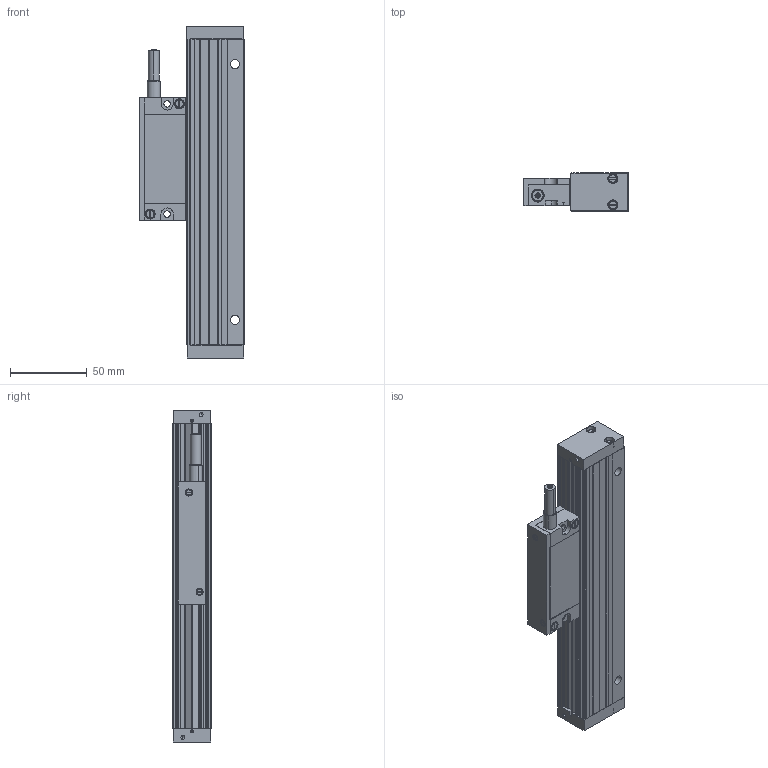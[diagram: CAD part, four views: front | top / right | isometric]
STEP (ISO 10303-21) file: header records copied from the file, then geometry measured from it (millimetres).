
FILE_DESCRIPTION (( 'STEP AP214' ), '1' );
FILE_NAME ('ﾋﾈﾐ-ﾄﾀ9.STEP', '2017-05-23T08:24:57', ( '' ), ( '' ), 'SwSTEP 2.0', 'SolidWorks 2013', '' );
FILE_SCHEMA (( 'AUTOMOTIVE_DESIGN' ));
Length unit declared in the file: millimetre
Products named in the file (1): ﾋﾈﾐ-ﾄﾀ9
Bounding box: 68.18 x 25 x 217 mm (x, y, z)
Volume: 152409.2 mm3; surface area: 92008.5 mm2
Topology: 33 solids, 33 shells, 1880 faces, 4986 edges, 3185 vertices
Faces by surface type: cone 792, cylinder 638, plane 417, torus 22, bspline 11
Entity records: 84192 total; most frequent: CARTESIAN_POINT 14710, DIRECTION 11030, ORIENTED_EDGE 9948, EDGE_CURVE 4974, AXIS2_PLACEMENT_3D 4363, VERTEX_POINT 3185, CIRCLE 2493, VECTOR 2304
